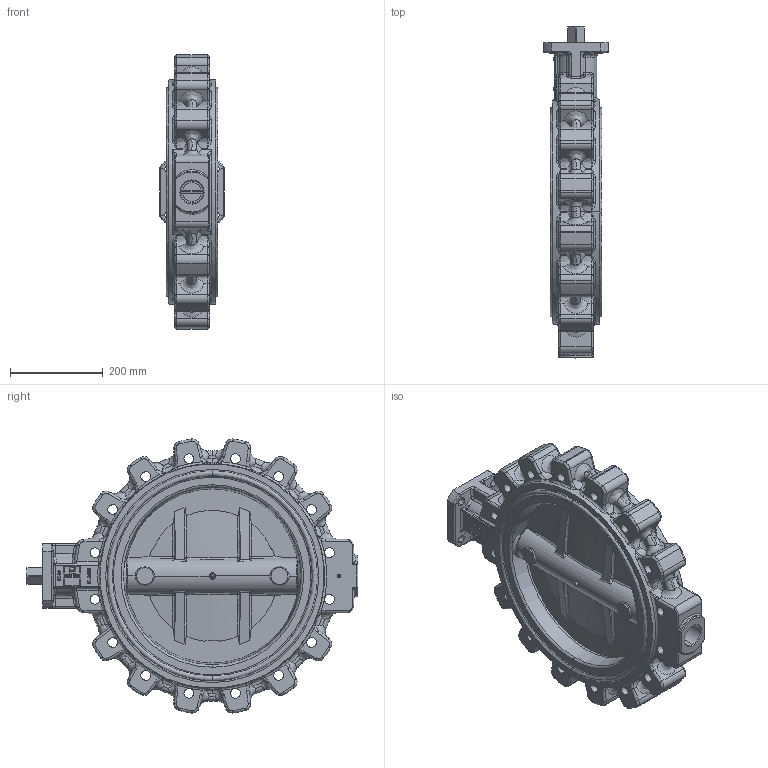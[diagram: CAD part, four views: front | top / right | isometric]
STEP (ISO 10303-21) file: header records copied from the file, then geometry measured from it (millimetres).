
FILE_DESCRIPTION (( 'STEP AP203' ), '1' );
FILE_NAME ('4832070_Axel-Larsson.step', '2023-10-04T14:08:07', ( '' ), ( '' ), 'SwSTEP 2.0', 'SolidWorks 2014', '' );
FILE_SCHEMA (( 'CONFIG_CONTROL_DESIGN' ));
Products named in the file (1): 4832070_Axel-Larsson
Bounding box: 140 x 715 x 590.45 mm (x, y, z)
Volume: 14959437.1 mm3; surface area: 1210730.6 mm2
Topology: 15 solids, 16 shells, 1730 faces, 4539 edges, 2742 vertices
Faces by surface type: bspline 735, plane 429, cylinder 391, cone 175
Entity records: 114971 total; most frequent: CARTESIAN_POINT 78484, ORIENTED_EDGE 8866, DIRECTION 6001, EDGE_CURVE 4433, VERTEX_POINT 2742, AXIS2_PLACEMENT_3D 2377, EDGE_LOOP 1815, FACE_OUTER_BOUND 1730
